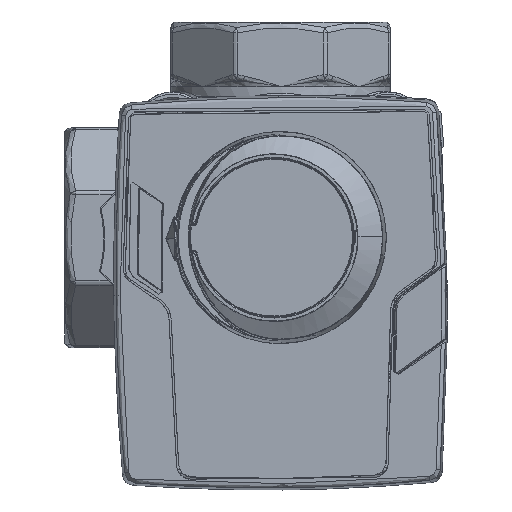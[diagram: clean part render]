
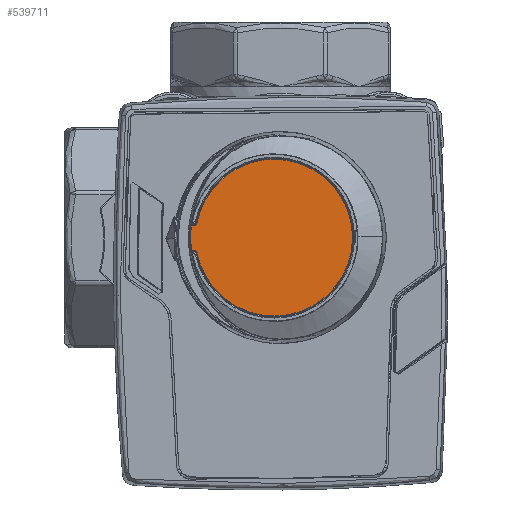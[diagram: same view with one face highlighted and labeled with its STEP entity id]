
A CAD part, front view. The second image highlights one B-rep face of the part: STEP entity #539711.
In plain terms, the highlighted planar face has unit normal (0, -1, 0) as drawn and (0, 0, -1) by its records, which use the part's own axes.
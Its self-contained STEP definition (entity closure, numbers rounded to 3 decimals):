
#13191 = CARTESIAN_POINT ( 'NONE',  ( 17.055, 20.727, 93.5 ) ) ;
#18406 = EDGE_LOOP ( 'NONE', ( #483760, #545612, #509709, #300829, #542238, #116322, #343777, #128169 ) ) ;
#19161 = VERTEX_POINT ( 'NONE', #590259 ) ;
#24035 = CARTESIAN_POINT ( 'NONE',  ( 17.055, 21.778, 93.5 ) ) ;
#34560 = CARTESIAN_POINT ( 'NONE',  ( 33.253, 11.292, 93.5 ) ) ;
#48765 = EDGE_CURVE ( 'NONE', #19161, #419231, #193783, .T. ) ;
#52140 = PLANE ( 'NONE',  #580806 ) ;
#65658 =( BOUNDED_CURVE ( )  B_SPLINE_CURVE ( 3, ( #319680, #34560, #207238, #435976 ),
 .UNSPECIFIED., .F., .T. ) 
 B_SPLINE_CURVE_WITH_KNOTS ( ( 4, 4 ),
 ( 0.765, 1. ),
 .UNSPECIFIED. ) 
 CURVE ( )  GEOMETRIC_REPRESENTATION_ITEM ( )  RATIONAL_B_SPLINE_CURVE ( ( 1., 0.844, 0.844, 1. ) ) 
 REPRESENTATION_ITEM ( '' )  );
#70193 = CARTESIAN_POINT ( 'NONE',  ( 33.253, 1.5, 93.5 ) ) ;
#91364 = CARTESIAN_POINT ( 'NONE',  ( 12.974, 22.079, 93.5 ) ) ;
#104287 = CARTESIAN_POINT ( 'NONE',  ( 10.886, 20.544, 93.5 ) ) ;
#105703 = CARTESIAN_POINT ( 'NONE',  ( 10.697, 20.467, 93.5 ) ) ;
#116322 = ORIENTED_EDGE ( 'NONE', *, *, #48765, .T. ) ;
#128045 = VERTEX_POINT ( 'NONE', #137643 ) ;
#128169 = ORIENTED_EDGE ( 'NONE', *, *, #458387, .F. ) ;
#135854 = VERTEX_POINT ( 'NONE', #515821 ) ;
#137643 = CARTESIAN_POINT ( 'NONE',  ( 17.055, 21.778, 93.5 ) ) ;
#140012 = CARTESIAN_POINT ( 'NONE',  ( 10.945, 11.888, 93.5 ) ) ;
#149597 = CARTESIAN_POINT ( 'NONE',  ( 10.756, 20.478, 93.5 ) ) ;
#153214 = CARTESIAN_POINT ( 'NONE',  ( 10.945, 20.763, 93.5 ) ) ;
#180396 = VERTEX_POINT ( 'NONE', #506923 ) ;
#193783 = B_SPLINE_CURVE_WITH_KNOTS ( 'NONE', 3,
 ( #403556, #13191, #643362, #470802, #231020, #516022, #407260, #692242 ),
 .UNSPECIFIED., .F., .F.,
 ( 4, 2, 2, 4 ),
 ( 0., 0.25, 0.5, 1. ),
 .UNSPECIFIED. ) ;
#207238 = CARTESIAN_POINT ( 'NONE',  ( 26.951, 18.787, 93.5 ) ) ;
#207790 = CARTESIAN_POINT ( 'NONE',  ( 15.026, 22.079, 93.5 ) ) ;
#216626 = VECTOR ( 'NONE', #307561, 1000. ) ;
#223699 = B_SPLINE_CURVE_WITH_KNOTS ( 'NONE', 3,
 ( #153214, #558246, #104287, #149597, #494627 ),
 .UNSPECIFIED., .F., .F.,
 ( 4, 1, 4 ),
 ( 0., 0.571, 1. ),
 .UNSPECIFIED. ) ;
#231020 = CARTESIAN_POINT ( 'NONE',  ( 17.102, 20.598, 93.5 ) ) ;
#264018 = EDGE_CURVE ( 'NONE', #128045, #180396, #556381, .T. ) ;
#268522 = CARTESIAN_POINT ( 'NONE',  ( -5.253, -37.006, 93.5 ) ) ;
#270895 = EDGE_CURVE ( 'NONE', #293667, #135854, #278311, .T. ) ;
#278311 =( BOUNDED_CURVE ( )  B_SPLINE_CURVE ( 3, ( #618468, #333374, #569613, #442307 ),
 .UNSPECIFIED., .F., .F. ) 
 B_SPLINE_CURVE_WITH_KNOTS ( ( 4, 4 ),
 ( 0., 0.235 ),
 .UNSPECIFIED. ) 
 CURVE ( )  GEOMETRIC_REPRESENTATION_ITEM ( )  RATIONAL_B_SPLINE_CURVE ( ( 1., 0.844, 0.844, 1. ) ) 
 REPRESENTATION_ITEM ( '' )  );
#282176 = EDGE_CURVE ( 'NONE', #180396, #525955, #425146, .T. ) ;
#291807 = EDGE_CURVE ( 'NONE', #19161, #128045, #708885, .T. ) ;
#293667 = VERTEX_POINT ( 'NONE', #105703 ) ;
#300829 = ORIENTED_EDGE ( 'NONE', *, *, #264018, .F. ) ;
#305835 =( BOUNDED_CURVE ( )  B_SPLINE_CURVE ( 3, ( #437286, #268522, #557171, #722360 ),
 .UNSPECIFIED., .F., .F. ) 
 B_SPLINE_CURVE_WITH_KNOTS ( ( 4, 4 ),
 ( 0.235, 0.765 ),
 .UNSPECIFIED. ) 
 CURVE ( )  GEOMETRIC_REPRESENTATION_ITEM ( )  RATIONAL_B_SPLINE_CURVE ( ( 1., 0.333, 0.333, 1. ) ) 
 REPRESENTATION_ITEM ( '' )  );
#307561 = DIRECTION ( 'NONE',  ( 0., 1., 0. ) ) ;
#319680 = CARTESIAN_POINT ( 'NONE',  ( 33.253, 1.5, 93.5 ) ) ;
#323887 = CARTESIAN_POINT ( 'NONE',  ( 10.945, 21.778, 93.5 ) ) ;
#333374 = CARTESIAN_POINT ( 'NONE',  ( 1.049, 18.787, 93.5 ) ) ;
#343777 = ORIENTED_EDGE ( 'NONE', *, *, #569329, .F. ) ;
#352201 = VECTOR ( 'NONE', #368777, 1000. ) ;
#368777 = DIRECTION ( 'NONE',  ( 0., -1., 0. ) ) ;
#403556 = CARTESIAN_POINT ( 'NONE',  ( 17.055, 20.763, 93.5 ) ) ;
#407260 = CARTESIAN_POINT ( 'NONE',  ( 17.232, 20.48, 93.5 ) ) ;
#419231 = VERTEX_POINT ( 'NONE', #655971 ) ;
#425146 = LINE ( 'NONE', #140012, #352201 ) ;
#435976 = CARTESIAN_POINT ( 'NONE',  ( 17.303, 20.467, 93.5 ) ) ;
#437286 = CARTESIAN_POINT ( 'NONE',  ( -5.253, 1.5, 93.5 ) ) ;
#442307 = CARTESIAN_POINT ( 'NONE',  ( -5.253, 1.5, 93.5 ) ) ;
#453499 = CARTESIAN_POINT ( 'NONE',  ( 14., 3., 93.5 ) ) ;
#458387 = EDGE_CURVE ( 'NONE', #135854, #638710, #305835, .T. ) ;
#470802 = CARTESIAN_POINT ( 'NONE',  ( 17.086, 20.626, 93.5 ) ) ;
#483760 = ORIENTED_EDGE ( 'NONE', *, *, #270895, .F. ) ;
#494627 = CARTESIAN_POINT ( 'NONE',  ( 10.697, 20.467, 93.5 ) ) ;
#506923 = CARTESIAN_POINT ( 'NONE',  ( 10.945, 21.778, 93.5 ) ) ;
#509709 = ORIENTED_EDGE ( 'NONE', *, *, #282176, .F. ) ;
#515821 = CARTESIAN_POINT ( 'NONE',  ( -5.253, 1.5, 93.5 ) ) ;
#516022 = CARTESIAN_POINT ( 'NONE',  ( 17.172, 20.514, 93.5 ) ) ;
#525955 = VERTEX_POINT ( 'NONE', #563230 ) ;
#536329 = CARTESIAN_POINT ( 'NONE',  ( 17.055, 12.648, 93.5 ) ) ;
#539711 = ADVANCED_FACE ( 'NONE', ( #622287 ), #52140, .F. ) ;
#542238 = ORIENTED_EDGE ( 'NONE', *, *, #291807, .F. ) ;
#545612 = ORIENTED_EDGE ( 'NONE', *, *, #711929, .F. ) ;
#556381 =( BOUNDED_CURVE ( )  B_SPLINE_CURVE ( 3, ( #24035, #207790, #91364, #323887 ),
 .UNSPECIFIED., .F., .F. ) 
 B_SPLINE_CURVE_WITH_KNOTS ( ( 4, 4 ),
 ( 0., 1. ),
 .UNSPECIFIED. ) 
 CURVE ( )  GEOMETRIC_REPRESENTATION_ITEM ( )  RATIONAL_B_SPLINE_CURVE ( ( 1., 0.993, 0.993, 1. ) ) 
 REPRESENTATION_ITEM ( '' )  );
#557171 = CARTESIAN_POINT ( 'NONE',  ( 33.253, -37.006, 93.5 ) ) ;
#558246 = CARTESIAN_POINT ( 'NONE',  ( 10.945, 20.683, 93.5 ) ) ;
#563230 = CARTESIAN_POINT ( 'NONE',  ( 10.945, 20.763, 93.5 ) ) ;
#569329 = EDGE_CURVE ( 'NONE', #638710, #419231, #65658, .T. ) ;
#569613 = CARTESIAN_POINT ( 'NONE',  ( -5.253, 11.292, 93.5 ) ) ;
#580806 = AXIS2_PLACEMENT_3D ( 'NONE', #453499, #682272, #651850 ) ;
#590259 = CARTESIAN_POINT ( 'NONE',  ( 17.055, 20.763, 93.5 ) ) ;
#618468 = CARTESIAN_POINT ( 'NONE',  ( 10.697, 20.467, 93.5 ) ) ;
#622287 = FACE_OUTER_BOUND ( 'NONE', #18406, .T. ) ;
#638710 = VERTEX_POINT ( 'NONE', #70193 ) ;
#643362 = CARTESIAN_POINT ( 'NONE',  ( 17.061, 20.694, 93.5 ) ) ;
#651850 = DIRECTION ( 'NONE',  ( 1., 0., 0. ) ) ;
#655971 = CARTESIAN_POINT ( 'NONE',  ( 17.303, 20.467, 93.5 ) ) ;
#682272 = DIRECTION ( 'NONE',  ( 0., 0., 1. ) ) ;
#692242 = CARTESIAN_POINT ( 'NONE',  ( 17.303, 20.467, 93.5 ) ) ;
#708885 = LINE ( 'NONE', #536329, #216626 ) ;
#711929 = EDGE_CURVE ( 'NONE', #525955, #293667, #223699, .T. ) ;
#722360 = CARTESIAN_POINT ( 'NONE',  ( 33.253, 1.5, 93.5 ) ) ;
